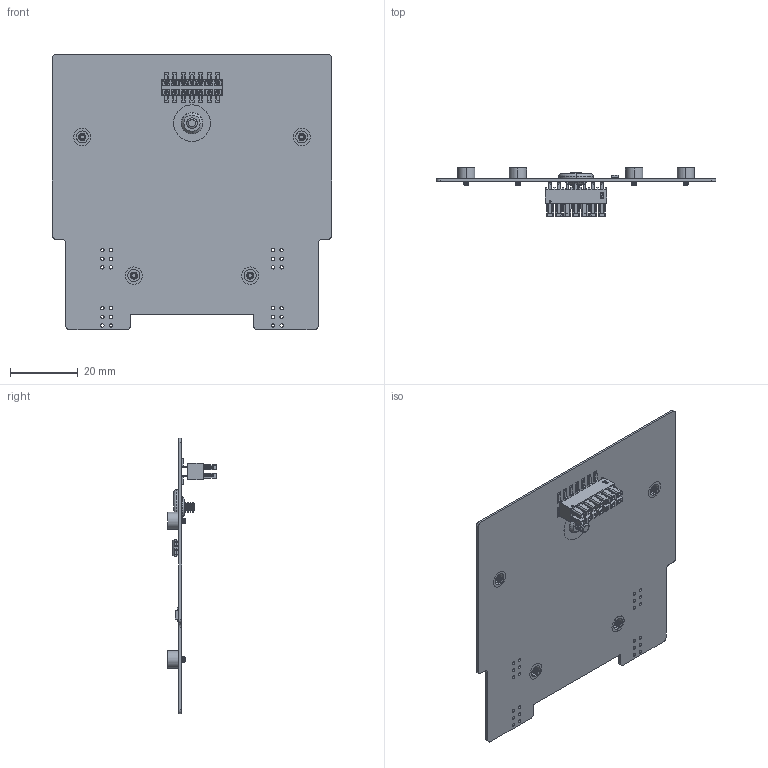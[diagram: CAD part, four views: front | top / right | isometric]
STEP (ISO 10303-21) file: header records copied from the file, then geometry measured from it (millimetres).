
FILE_DESCRIPTION (( 'STEP AP214' ), '1' );
FILE_NAME ('O1 +Y Side Panel.STEP', '2023-02-26T05:33:18', ( '' ), ( '' ), 'SwSTEP 2.0', 'SolidWorks 2020', '' );
FILE_SCHEMA (( 'AUTOMOTIVE_DESIGN' ));
Length unit declared in the file: inch
Products named in the file (1): O1 +Y Side Panel
Bounding box: 82.55 x 14.35 x 81.28 mm (x, y, z)
Volume: 5650.8 mm3; surface area: 15519.8 mm2
Topology: 1 solids, 1 shells, 2216 faces, 6311 edges, 4063 vertices
Faces by surface type: plane 1462, cylinder 450, cone 284, torus 14, bspline 6
Entity records: 72071 total; most frequent: CARTESIAN_POINT 13283, ORIENTED_EDGE 12606, DIRECTION 11919, EDGE_CURVE 6303, LINE 4889, VECTOR 4889, VERTEX_POINT 4063, AXIS2_PLACEMENT_3D 3515
